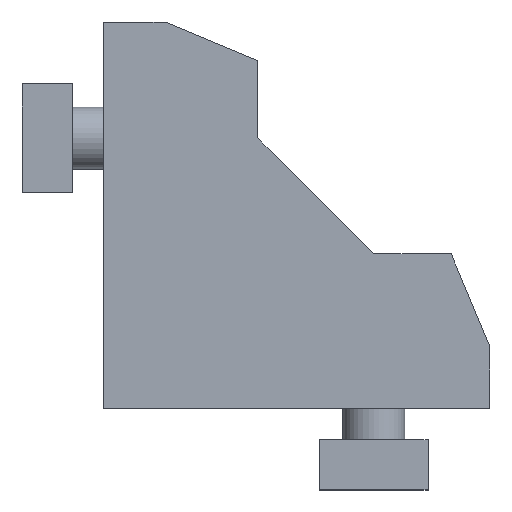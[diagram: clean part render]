
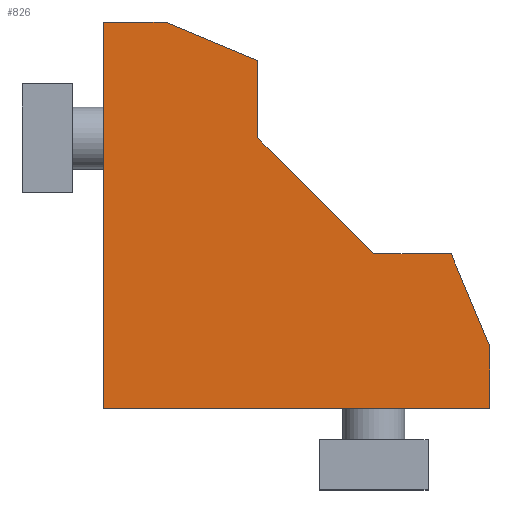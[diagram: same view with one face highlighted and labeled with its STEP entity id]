
A CAD part, top view. The second image highlights one B-rep face of the part: STEP entity #826.
In plain terms, the highlighted planar face has unit normal (0, 0, 1).
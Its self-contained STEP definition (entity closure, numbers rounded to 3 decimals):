
#261=CARTESIAN_POINT('',(50.,8.,15.));
#262=VERTEX_POINT('',#261);
#269=CARTESIAN_POINT('',(50.,0.0,15.));
#270=VERTEX_POINT('',#269);
#271=CARTESIAN_POINT('',(50.,8.,15.));
#272=DIRECTION('',(0.0,-1.0,0.0));
#273=VECTOR('',#272,8.);
#274=LINE('',#271,#273);
#275=EDGE_CURVE('',#262,#270,#274,.T.);
#324=CARTESIAN_POINT('',(45.,20.,15.));
#325=VERTEX_POINT('',#324);
#332=CARTESIAN_POINT('',(45.,20.,15.));
#333=DIRECTION('',(0.385,-0.923,0.0));
#334=VECTOR('',#333,13.);
#335=LINE('',#332,#334);
#336=EDGE_CURVE('',#325,#262,#335,.T.);
#355=CARTESIAN_POINT('',(35.,20.,15.));
#356=VERTEX_POINT('',#355);
#363=CARTESIAN_POINT('',(35.,20.,15.));
#364=DIRECTION('',(1.0,0.0,0.0));
#365=VECTOR('',#364,10.0);
#366=LINE('',#363,#365);
#367=EDGE_CURVE('',#356,#325,#366,.T.);
#386=CARTESIAN_POINT('',(20.,35.,15.));
#387=VERTEX_POINT('',#386);
#394=CARTESIAN_POINT('',(20.,35.,15.));
#395=DIRECTION('',(0.707,-0.707,0.0));
#396=VECTOR('',#395,21.213);
#397=LINE('',#394,#396);
#398=EDGE_CURVE('',#387,#356,#397,.T.);
#417=CARTESIAN_POINT('',(20.,45.,15.));
#418=VERTEX_POINT('',#417);
#425=CARTESIAN_POINT('',(20.,45.,15.));
#426=DIRECTION('',(0.0,-1.0,0.0));
#427=VECTOR('',#426,10.);
#428=LINE('',#425,#427);
#429=EDGE_CURVE('',#418,#387,#428,.T.);
#448=CARTESIAN_POINT('',(8.,50.,15.));
#449=VERTEX_POINT('',#448);
#456=CARTESIAN_POINT('',(8.,50.,15.));
#457=DIRECTION('',(0.923,-0.385,0.0));
#458=VECTOR('',#457,13.);
#459=LINE('',#456,#458);
#460=EDGE_CURVE('',#449,#418,#459,.T.);
#497=CARTESIAN_POINT('',(0.,50.,15.));
#498=VERTEX_POINT('',#497);
#505=CARTESIAN_POINT('',(0.,50.,15.));
#506=DIRECTION('',(1.0,0.0,0.0));
#507=VECTOR('',#506,8.);
#508=LINE('',#505,#507);
#509=EDGE_CURVE('',#498,#449,#508,.T.);
#768=CARTESIAN_POINT('',(0.0,0.0,15.));
#769=VERTEX_POINT('',#768);
#770=CARTESIAN_POINT('',(0.0,0.0,15.));
#771=DIRECTION('',(0.0,1.0,0.0));
#772=VECTOR('',#771,50.);
#773=LINE('',#770,#772);
#774=EDGE_CURVE('',#769,#498,#773,.T.);
#795=CARTESIAN_POINT('',(50.,0.0,15.));
#796=DIRECTION('',(-1.0,0.0,0.0));
#797=VECTOR('',#796,50.);
#798=LINE('',#795,#797);
#799=EDGE_CURVE('',#270,#769,#798,.T.);
#810=CARTESIAN_POINT('',(20.003,20.003,15.));
#811=DIRECTION('',(0.0,0.0,1.0));
#812=DIRECTION('',(1.0,0.0,0.0));
#813=AXIS2_PLACEMENT_3D('',#810,#811,#812);
#814=PLANE('',#813);
#815=ORIENTED_EDGE('',*,*,#774,.F.);
#816=ORIENTED_EDGE('',*,*,#799,.F.);
#817=ORIENTED_EDGE('',*,*,#275,.F.);
#818=ORIENTED_EDGE('',*,*,#336,.F.);
#819=ORIENTED_EDGE('',*,*,#367,.F.);
#820=ORIENTED_EDGE('',*,*,#398,.F.);
#821=ORIENTED_EDGE('',*,*,#429,.F.);
#822=ORIENTED_EDGE('',*,*,#460,.F.);
#823=ORIENTED_EDGE('',*,*,#509,.F.);
#824=EDGE_LOOP('',(#815,#816,#817,#818,#819,#820,#821,#822,#823));
#825=FACE_OUTER_BOUND('',#824,.T.);
#826=ADVANCED_FACE('',(#825),#814,.T.);
